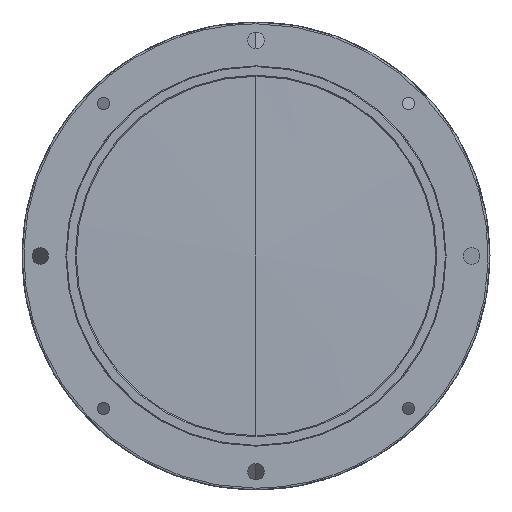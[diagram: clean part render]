
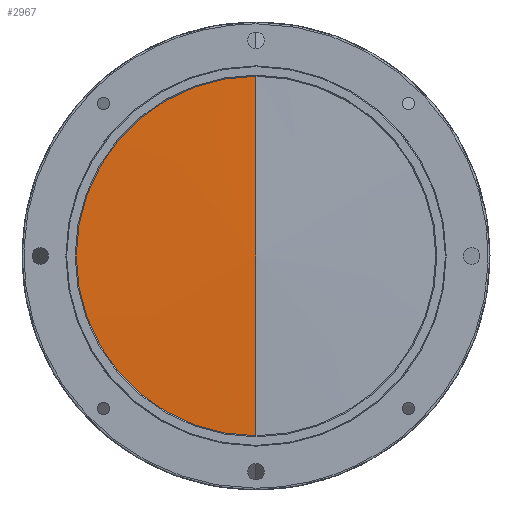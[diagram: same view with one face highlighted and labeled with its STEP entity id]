
A CAD part, left-side view. The second image highlights one B-rep face of the part: STEP entity #2967.
In plain terms, the highlighted conical face has half-angle 88.864 degrees and reference radius 51.278 mm.
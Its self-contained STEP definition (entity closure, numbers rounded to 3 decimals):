
#65 = CARTESIAN_POINT ( 'NONE',  ( 1.017, 0., 0. ) ) ;
#471 = DIRECTION ( 'NONE',  ( 0., 0., -1. ) ) ;
#668 = CARTESIAN_POINT ( 'NONE',  ( 1.017, 0., 51.278 ) ) ;
#1489 = AXIS2_PLACEMENT_3D ( 'NONE', #10223, #5812, #471 ) ;
#1589 = EDGE_CURVE ( 'NONE', #2098, #5910, #9615, .T. ) ;
#1878 = CARTESIAN_POINT ( 'NONE',  ( 0.975, 0., -49.15 ) ) ;
#1957 = DIRECTION ( 'NONE',  ( 0.02, 0., -1. ) ) ;
#2098 = VERTEX_POINT ( 'NONE', #1878 ) ;
#2714 = CARTESIAN_POINT ( 'NONE',  ( 0.975, 0., 49.15 ) ) ;
#2792 = LINE ( 'NONE', #668, #9334 ) ;
#2967 = ADVANCED_FACE ( 'NONE', ( #3469 ), #3050, .T. ) ;
#3050 = CONICAL_SURFACE ( 'NONE', #7861, 51.278, 1.551 ) ;
#3365 = DIRECTION ( 'NONE',  ( 0.02, 0., 1. ) ) ;
#3469 = FACE_OUTER_BOUND ( 'NONE', #4387, .T. ) ;
#3767 = DIRECTION ( 'NONE',  ( 1., 0., 0. ) ) ;
#4041 = ORIENTED_EDGE ( 'NONE', *, *, #1589, .F. ) ;
#4307 = EDGE_CURVE ( 'NONE', #11300, #5910, #2792, .T. ) ;
#4322 = VECTOR ( 'NONE', #1957, 1000. ) ;
#4387 = EDGE_LOOP ( 'NONE', ( #7498, #6020, #4041 ) ) ;
#4421 = EDGE_CURVE ( 'NONE', #11300, #2098, #9054, .T. ) ;
#5812 = DIRECTION ( 'NONE',  ( 1., 0., 0. ) ) ;
#5910 = VERTEX_POINT ( 'NONE', #2714 ) ;
#6020 = ORIENTED_EDGE ( 'NONE', *, *, #4307, .T. ) ;
#7278 = CARTESIAN_POINT ( 'NONE',  ( 1.017, 0., -51.278 ) ) ;
#7498 = ORIENTED_EDGE ( 'NONE', *, *, #4421, .F. ) ;
#7861 = AXIS2_PLACEMENT_3D ( 'NONE', #65, #3767, #9943 ) ;
#9054 = LINE ( 'NONE', #7278, #4322 ) ;
#9334 = VECTOR ( 'NONE', #3365, 1000. ) ;
#9615 = CIRCLE ( 'NONE', #1489, 49.15 ) ;
#9622 = CARTESIAN_POINT ( 'NONE',  ( 0., 0., 0. ) ) ;
#9943 = DIRECTION ( 'NONE',  ( 0., 0., -1. ) ) ;
#10223 = CARTESIAN_POINT ( 'NONE',  ( 0.975, 0., 0. ) ) ;
#11300 = VERTEX_POINT ( 'NONE', #9622 ) ;
